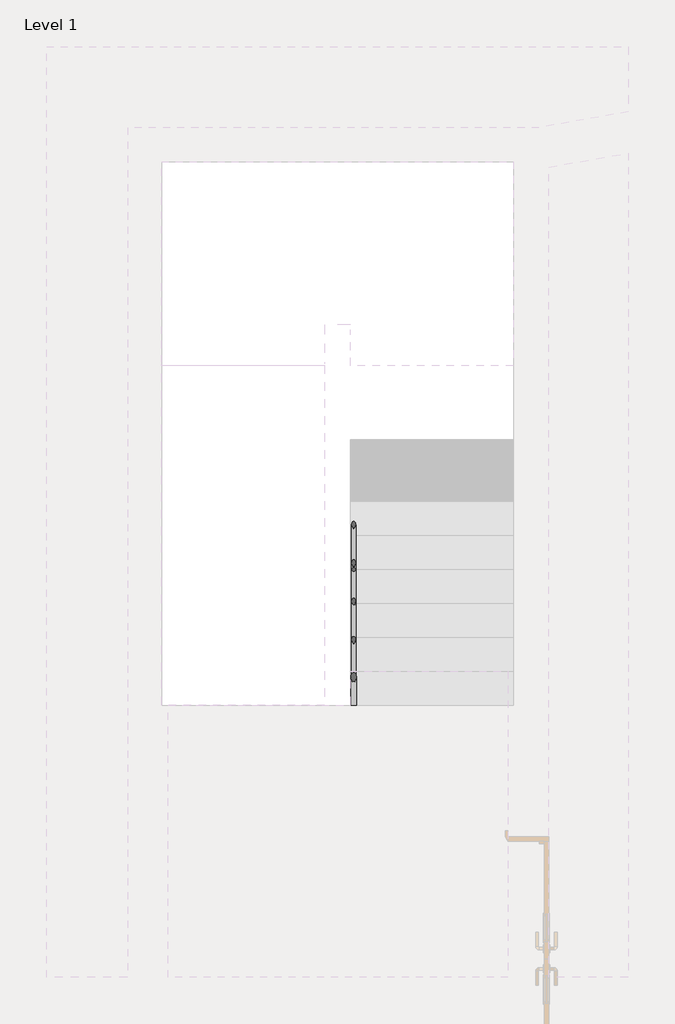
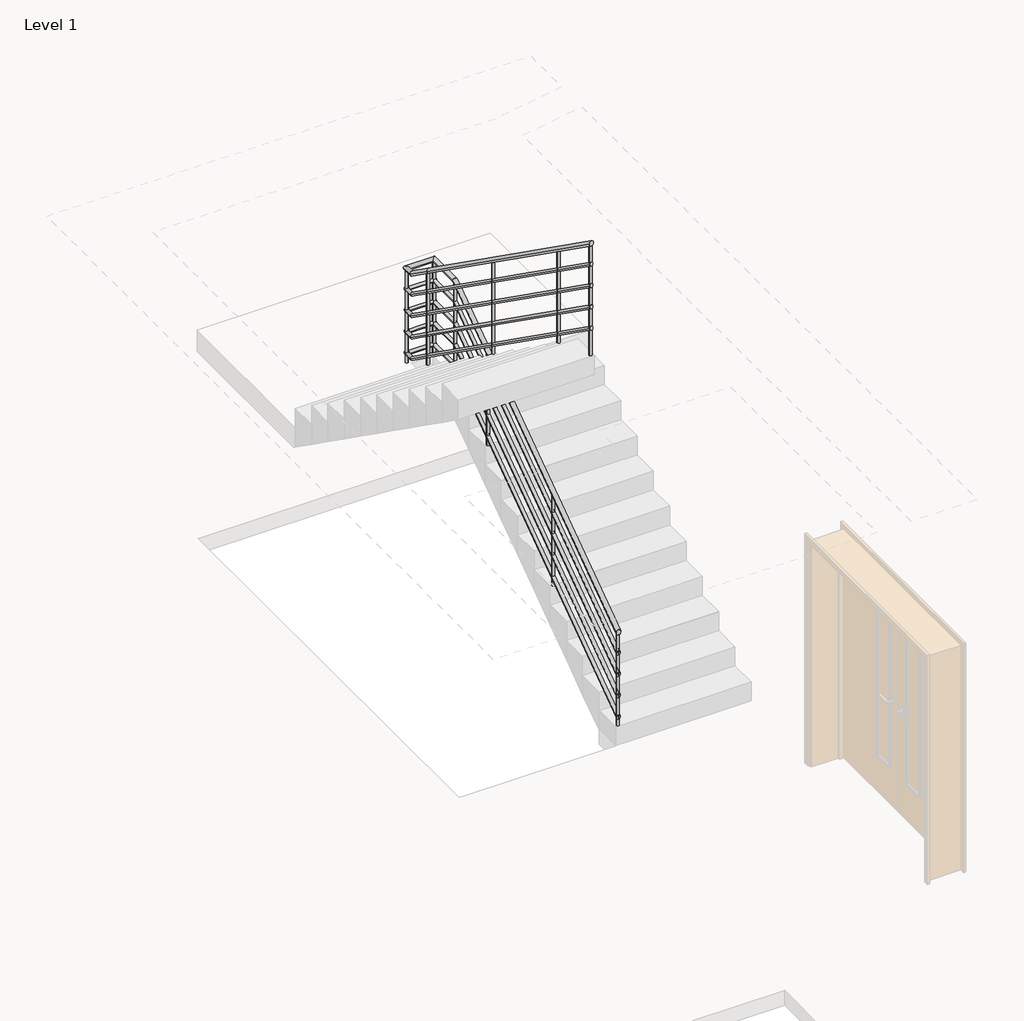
# One storey, part 11 of 12: 1 railing.
"""IFC4 building model written with IfcOpenShell, lengths in millimetres."""

from ifc_helpers import new_model, si_unit, point, frame, frame_2d, origin, place, context, project, spatial, circle_curve, ellipse_curve, trimmed, segment, composite_curve, outline, extrude, element, save
from ifc_brep_helpers import plane_surface, cylinder_surface, advanced_brep

model = new_model("IFC4")

# Units and contexts
model_context = context("Model", 3, world=origin())
ifc_project = project(units=[si_unit("LENGTHUNIT", "METRE", prefix="MILLI")], contexts=[model_context])

# Site, building, storey
site = spatial("IfcSite", under=ifc_project)
building = spatial("IfcBuilding", under=site)
storey = spatial("IfcBuildingStorey", under=building, Name="Level 1", Elevation=3900.0)

# Railing
placement = place(None, origin())
element("IfcRailing", 1, ObjectType="900mm_Pipe", at=placement, inside=storey, context=model_context, shape_type="SolidModel", body=[
    advanced_brep(
    [(29097.6000029, 3763.2000006, 4952.7548977), (29057.6000029, 3763.2000006, 4952.7548977), (29097.6000029, 6269.5712987, 6730.0), (29057.6000029, 6269.5712987, 6730.0), (29097.6000029, 6608.6000006, 6730.0), (29057.6000029, 6568.6000006, 6730.0), (28816.8000029, 6608.6000006, 6730.0), (28856.8000029, 6568.6000006, 6730.0), (28816.8000029, 6506.8287024, 6730.0), (28856.8000029, 6506.8287024, 6730.0), (28816.8000029, 6251.631425, 6910.9580695), (28856.8000029, 6251.631425, 6910.9580695), (28816.8000029, 3763.2000006, 8675.4821704), (28856.8000029, 3763.2000006, 8675.4821704)],
    [
        (0, 1, ellipse_curve(frame((29077.6000029, 3763.2000006, 4952.7548977), z_axis=(0.0, -1.0, 0.0), x_axis=(0.0, 0.0, -1.0)), 24.5178296, 20.0)),
        (1, 0, ellipse_curve(frame((29077.6000029, 3763.2000006, 4952.7548977), z_axis=(0.0, -1.0, 0.0), x_axis=(0.0, 0.0, -1.0)), 24.5178296, 20.0)),
        (0, 2),
        (2, 3, ellipse_curve(frame((29077.6000029, 6269.5712987, 6730.0), z_axis=(0.0, -0.9528202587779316, -0.3035350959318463), x_axis=(0.0, 0.30353509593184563, -0.952820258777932)), 20.9903178, 20.0)),
        (3, 1),
        (3, 2, ellipse_curve(frame((29077.6000029, 6269.5712987, 6730.0), z_axis=(0.0, -0.9528202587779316, -0.3035350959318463), x_axis=(0.0, 0.30353509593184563, -0.952820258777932)), 20.9903178, 20.0)),
        (2, 4),
        (4, 5, ellipse_curve(frame((29077.6000029, 6588.6000006, 6730.0), z_axis=(0.7071067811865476, -0.7071067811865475, 0.0), x_axis=(-0.7071067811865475, -0.7071067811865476, 0.0)), 28.2842712, 20.0)),
        (5, 3),
        (5, 4, ellipse_curve(frame((29077.6000029, 6588.6000006, 6730.0), z_axis=(0.7071067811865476, -0.7071067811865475, 0.0), x_axis=(-0.7071067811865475, -0.7071067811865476, 0.0)), 28.2842712, 20.0)),
        (4, 6),
        (6, 7, ellipse_curve(frame((28836.8000029, 6588.6000006, 6730.0), z_axis=(0.7071067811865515, 0.7071067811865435, 0.0), x_axis=(0.7071067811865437, -0.7071067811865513, 0.0)), 28.2842712, 20.0)),
        (7, 5),
        (7, 6, ellipse_curve(frame((28836.8000029, 6588.6000006, 6730.0), z_axis=(0.7071067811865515, 0.7071067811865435, 0.0), x_axis=(0.7071067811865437, -0.7071067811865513, 0.0)), 28.2842712, 20.0)),
        (6, 8),
        (8, 9, ellipse_curve(frame((28836.8000029, 6506.8287024, 6730.0), z_axis=(0.0, 0.9528202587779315, -0.3035350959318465), x_axis=(0.0, 0.3035350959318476, 0.9528202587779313)), 20.9903178, 20.0)),
        (9, 7),
        (9, 8, ellipse_curve(frame((28836.8000029, 6506.8287024, 6730.0), z_axis=(0.0, 0.9528202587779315, -0.3035350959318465), x_axis=(0.0, 0.3035350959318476, 0.9528202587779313)), 20.9903178, 20.0)),
        (8, 10),
        (10, 11, circle_curve(frame((28836.8000029, 6251.631425, 6910.9580695), z_axis=(0.0, 0.8157328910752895, -0.5784287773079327), x_axis=(1.0, 0.0, 0.0)), 20.0)),
        (11, 9),
        (11, 10, circle_curve(frame((28836.8000029, 6251.631425, 6910.9580695), z_axis=(0.0, 0.8157328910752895, -0.5784287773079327), x_axis=(1.0, 0.0, 0.0)), 20.0)),
        (12, 13, ellipse_curve(frame((28836.8000029, 3763.2000006, 8675.4821704), z_axis=(0.0, -1.0, 0.0), x_axis=(0.0, 0.0, -1.0)), 24.5178296, 20.0)),
        (13, 12, ellipse_curve(frame((28836.8000029, 3763.2000006, 8675.4821704), z_axis=(0.0, -1.0, 0.0), x_axis=(0.0, 0.0, -1.0)), 24.5178296, 20.0)),
        (10, 12),
        (13, 11),
    ],
    [
        plane_surface(frame((29077.6000029, 3763.2000006, 4977.2727273), z_axis=(0.0, -1.0, 0.0), x_axis=(0.0, 0.0, 1.0))),
        cylinder_surface(frame((29077.6000029, 3774.7685761, 4960.9580695), z_axis=(0.0, -0.8157328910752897, -0.5784287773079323), x_axis=(-1.0, 0.0, 0.0)), 20.0),
        cylinder_surface(frame((29077.6000029, 6263.2000006, 6730.0), z_axis=(0.0, -1.0, 0.0), x_axis=(-1.0, 0.0, 0.0)), 20.0),
        cylinder_surface(frame((29077.6000029, 6588.6000006, 6730.0), z_axis=(1.0, 0.0, 0.0), x_axis=(0.0, -1.0, 0.0)), 20.0),
        cylinder_surface(frame((28836.8000029, 6588.6000006, 6730.0), z_axis=(0.0, 1.0, 0.0), x_axis=(1.0, 0.0, 0.0)), 20.0),
        cylinder_surface(frame((28836.8000029, 6501.631425, 6733.6853422), z_axis=(0.0, 0.8157328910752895, -0.5784287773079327), x_axis=(1.0, 0.0, 0.0)), 20.0),
        plane_surface(frame((28836.8000029, 3763.2000006, 8700.0), z_axis=(0.0, -1.0, 0.0), x_axis=(0.0, 0.0, -1.0))),
        cylinder_surface(frame((28836.8000029, 6251.631425, 6910.9580695), z_axis=(0.0, 0.8157328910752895, -0.5784287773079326), x_axis=(1.0, 0.0, 0.0)), 20.0),
    ],
    [
        (0, [[1, 2]]),
        (1, [[-1, 3, 4, 5]]),
        (1, [[-2, -5, 6, -3]]),
        (2, [[-4, 7, 8, 9]]),
        (2, [[-6, -9, 10, -7]]),
        (3, [[-8, 11, 12, 13]]),
        (3, [[-10, -13, 14, -11]]),
        (4, [[-12, 15, 16, 17]]),
        (4, [[-14, -17, 18, -15]]),
        (5, [[-16, 19, 20, 21]]),
        (5, [[-18, -21, 22, -19]]),
        (6, [[23, 24]]),
        (7, [[-20, 25, -24, 26]]),
        (7, [[-22, -26, -23, -25]]),
    ],
),
    advanced_brep(
    [(29092.6000029, 3763.2000006, 4758.8843551), (29062.6000029, 3763.2000006, 4758.8843551), (29092.6000029, 6263.2000006, 6531.6116278), (29062.6000029, 6263.2000006, 6531.6116278)],
    [
        (0, 1, ellipse_curve(frame((29077.6000029, 3763.2000006, 4758.8843551), z_axis=(0.0, -1.0, 0.0), x_axis=(0.0, 0.0, -1.0)), 18.3883722, 15.0)),
        (1, 0, ellipse_curve(frame((29077.6000029, 3763.2000006, 4758.8843551), z_axis=(0.0, -1.0, 0.0), x_axis=(0.0, 0.0, -1.0)), 18.3883722, 15.0)),
        (2, 3, ellipse_curve(frame((29077.6000029, 6263.2000006, 6531.6116278), z_axis=(0.0, 1.0, 0.0), x_axis=(0.0, 0.0, -1.0)), 18.3883722, 15.0)),
        (3, 2, ellipse_curve(frame((29077.6000029, 6263.2000006, 6531.6116278), z_axis=(0.0, 1.0, 0.0), x_axis=(0.0, 0.0, -1.0)), 18.3883722, 15.0)),
        (0, 2),
        (3, 1),
    ],
    [
        plane_surface(frame((29077.6000029, 3763.2000006, 4777.2727273), z_axis=(0.0, -1.0, 0.0), x_axis=(0.0, 0.0, 1.0))),
        plane_surface(frame((29077.6000029, 6263.2000006, 6550.0), z_axis=(0.0, 1.0, 0.0), x_axis=(0.0, 0.0, 1.0))),
        cylinder_surface(frame((29077.6000029, 3771.8764322, 4765.0367339), z_axis=(0.0, -0.8157328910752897, -0.5784287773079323), x_axis=(-1.0, 0.0, 0.0)), 15.0),
    ],
    [
        (0, [[1, 2]]),
        (1, [[3, 4]]),
        (2, [[-1, 5, -4, 6]]),
        (2, [[-2, -6, -3, -5]]),
    ],
),
    advanced_brep(
    [(29092.6000029, 6263.2000006, 6535.0), (29062.6000029, 6263.2000006, 6535.0), (29092.6000029, 6573.6000006, 6535.0), (29062.6000029, 6573.6000006, 6535.0)],
    [
        (0, 1, circle_curve(frame((29077.6000029, 6263.2000006, 6535.0), z_axis=(0.0, -1.0, 0.0), x_axis=(-1.0, 0.0, 0.0)), 15.0)),
        (1, 0, circle_curve(frame((29077.6000029, 6263.2000006, 6535.0), z_axis=(0.0, -1.0, 0.0), x_axis=(-1.0, 0.0, 0.0)), 15.0)),
        (2, 3, circle_curve(frame((29077.6000029, 6573.6000006, 6535.0), z_axis=(0.0, 1.0, 0.0), x_axis=(-1.0, 0.0, 0.0)), 15.0)),
        (3, 2, circle_curve(frame((29077.6000029, 6573.6000006, 6535.0), z_axis=(0.0, 1.0, 0.0), x_axis=(-1.0, 0.0, 0.0)), 15.0)),
        (0, 2),
        (3, 1),
    ],
    [
        plane_surface(frame((29077.6000029, 6263.2000006, 6550.0), z_axis=(0.0, -1.0, 0.0), x_axis=(0.0, 0.0, 1.0))),
        plane_surface(frame((29077.6000029, 6573.6000006, 6550.0), z_axis=(0.0, 1.0, 0.0), x_axis=(0.0, 0.0, 1.0))),
        cylinder_surface(frame((29077.6000029, 6263.2000006, 6535.0), z_axis=(0.0, -1.0, 0.0), x_axis=(-1.0, 0.0, 0.0)), 15.0),
    ],
    [
        (0, [[1, 2]]),
        (1, [[3, 4]]),
        (2, [[-1, 5, -4, 6]]),
        (2, [[-2, -6, -3, -5]]),
    ],
),
    advanced_brep(
    [(29092.6000029, 6603.6000006, 6535.0), (29092.6000029, 6573.6000006, 6535.0), (28851.8000029, 6603.6000006, 6535.0), (28851.8000029, 6573.6000006, 6535.0)],
    [
        (0, 1, circle_curve(frame((29092.6000029, 6588.6000006, 6535.0), z_axis=(1.0, 0.0, 0.0), x_axis=(0.0, -1.0, 0.0)), 15.0)),
        (1, 0, circle_curve(frame((29092.6000029, 6588.6000006, 6535.0), z_axis=(1.0, 0.0, 0.0), x_axis=(0.0, -1.0, 0.0)), 15.0)),
        (2, 3, circle_curve(frame((28851.8000029, 6588.6000006, 6535.0), z_axis=(-1.0, 0.0, 0.0), x_axis=(0.0, -1.0, 0.0)), 15.0)),
        (3, 2, circle_curve(frame((28851.8000029, 6588.6000006, 6535.0), z_axis=(-1.0, 0.0, 0.0), x_axis=(0.0, -1.0, 0.0)), 15.0)),
        (0, 2),
        (3, 1),
    ],
    [
        plane_surface(frame((29092.6000029, 6588.6000006, 6550.0), z_axis=(1.0, 0.0, 0.0), x_axis=(0.0, -1.0, 0.0))),
        plane_surface(frame((28851.8000029, 6588.6000006, 6550.0), z_axis=(-1.0, 0.0, 0.0), x_axis=(0.0, -1.0, 0.0))),
        cylinder_surface(frame((29092.6000029, 6588.6000006, 6535.0), z_axis=(1.0, 0.0, 0.0), x_axis=(0.0, -1.0, 0.0)), 15.0),
    ],
    [
        (0, [[1, 2]]),
        (1, [[3, 4]]),
        (2, [[-1, 5, -4, 6]]),
        (2, [[-2, -6, -3, -5]]),
    ],
),
    advanced_brep(
    [(28821.8000029, 6603.6000006, 6535.0), (28851.8000029, 6603.6000006, 6535.0), (28821.8000029, 6508.421527, 6535.0), (28851.8000029, 6508.421527, 6535.0), (28821.8000029, 6263.2000006, 6708.8843551), (28851.8000029, 6263.2000006, 6708.8843551)],
    [
        (0, 1, circle_curve(frame((28836.8000029, 6603.6000006, 6535.0), z_axis=(0.0, 1.0, 0.0), x_axis=(1.0, 0.0, 0.0)), 15.0)),
        (1, 0, circle_curve(frame((28836.8000029, 6603.6000006, 6535.0), z_axis=(0.0, 1.0, 0.0), x_axis=(1.0, 0.0, 0.0)), 15.0)),
        (0, 2),
        (2, 3, ellipse_curve(frame((28836.8000029, 6508.421527, 6535.0), z_axis=(0.0, 0.9528202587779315, -0.3035350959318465), x_axis=(0.0, 0.3035350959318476, 0.9528202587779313)), 15.7427383, 15.0)),
        (3, 1),
        (3, 2, ellipse_curve(frame((28836.8000029, 6508.421527, 6535.0), z_axis=(0.0, 0.9528202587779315, -0.3035350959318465), x_axis=(0.0, 0.3035350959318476, 0.9528202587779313)), 15.7427383, 15.0)),
        (4, 5, ellipse_curve(frame((28836.8000029, 6263.2000006, 6708.8843551), z_axis=(0.0, -1.0, 0.0), x_axis=(0.0, 0.0, -1.0)), 18.3883722, 15.0)),
        (5, 4, ellipse_curve(frame((28836.8000029, 6263.2000006, 6708.8843551), z_axis=(0.0, -1.0, 0.0), x_axis=(0.0, 0.0, -1.0)), 18.3883722, 15.0)),
        (2, 4),
        (5, 3),
    ],
    [
        plane_surface(frame((28836.8000029, 6603.6000006, 6550.0), z_axis=(0.0, 1.0, 0.0), x_axis=(0.0, 0.0, -1.0))),
        cylinder_surface(frame((28836.8000029, 6603.6000006, 6535.0), z_axis=(0.0, 1.0, 0.0), x_axis=(1.0, 0.0, 0.0)), 15.0),
        plane_surface(frame((28836.8000029, 6263.2000006, 6727.2727273), z_axis=(0.0, -1.0, 0.0), x_axis=(0.0, 0.0, -1.0))),
        cylinder_surface(frame((28836.8000029, 6504.5235689, 6537.7640066), z_axis=(0.0, 0.8157328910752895, -0.5784287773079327), x_axis=(1.0, 0.0, 0.0)), 15.0),
    ],
    [
        (0, [[1, 2]]),
        (1, [[-1, 3, 4, 5]]),
        (1, [[-2, -5, 6, -3]]),
        (2, [[7, 8]]),
        (3, [[-4, 9, -8, 10]]),
        (3, [[-6, -10, -7, -9]]),
    ],
),
    advanced_brep(
    [(28821.8000029, 6263.2000006, 6708.8843551), (28851.8000029, 6263.2000006, 6708.8843551), (28821.8000029, 3763.2000006, 8481.6116278), (28851.8000029, 3763.2000006, 8481.6116278)],
    [
        (0, 1, ellipse_curve(frame((28836.8000029, 6263.2000006, 6708.8843551), z_axis=(0.0, 1.0, 0.0), x_axis=(0.0, 0.0, -1.0)), 18.3883722, 15.0)),
        (1, 0, ellipse_curve(frame((28836.8000029, 6263.2000006, 6708.8843551), z_axis=(0.0, 1.0, 0.0), x_axis=(0.0, 0.0, -1.0)), 18.3883722, 15.0)),
        (2, 3, ellipse_curve(frame((28836.8000029, 3763.2000006, 8481.6116278), z_axis=(0.0, -1.0, 0.0), x_axis=(0.0, 0.0, -1.0)), 18.3883722, 15.0)),
        (3, 2, ellipse_curve(frame((28836.8000029, 3763.2000006, 8481.6116278), z_axis=(0.0, -1.0, 0.0), x_axis=(0.0, 0.0, -1.0)), 18.3883722, 15.0)),
        (0, 2),
        (3, 1),
    ],
    [
        plane_surface(frame((28836.8000029, 6263.2000006, 6727.2727273), z_axis=(0.0, 1.0, 0.0), x_axis=(0.0, 0.0, -1.0))),
        plane_surface(frame((28836.8000029, 3763.2000006, 8500.0), z_axis=(0.0, -1.0, 0.0), x_axis=(0.0, 0.0, -1.0))),
        cylinder_surface(frame((28836.8000029, 6254.5235689, 6715.0367339), z_axis=(0.0, 0.8157328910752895, -0.5784287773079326), x_axis=(1.0, 0.0, 0.0)), 15.0),
    ],
    [
        (0, [[1, 2]]),
        (1, [[3, 4]]),
        (2, [[-1, 5, -4, 6]]),
        (2, [[-2, -6, -3, -5]]),
    ],
),
    advanced_brep(
    [(29092.6000029, 3763.2000006, 4558.8843551), (29062.6000029, 3763.2000006, 4558.8843551), (29092.6000029, 6263.2000006, 6331.6116278), (29062.6000029, 6263.2000006, 6331.6116278)],
    [
        (0, 1, ellipse_curve(frame((29077.6000029, 3763.2000006, 4558.8843551), z_axis=(0.0, -1.0, 0.0), x_axis=(0.0, 0.0, -1.0)), 18.3883722, 15.0)),
        (1, 0, ellipse_curve(frame((29077.6000029, 3763.2000006, 4558.8843551), z_axis=(0.0, -1.0, 0.0), x_axis=(0.0, 0.0, -1.0)), 18.3883722, 15.0)),
        (2, 3, ellipse_curve(frame((29077.6000029, 6263.2000006, 6331.6116278), z_axis=(0.0, 1.0, 0.0), x_axis=(0.0, 0.0, -1.0)), 18.3883722, 15.0)),
        (3, 2, ellipse_curve(frame((29077.6000029, 6263.2000006, 6331.6116278), z_axis=(0.0, 1.0, 0.0), x_axis=(0.0, 0.0, -1.0)), 18.3883722, 15.0)),
        (0, 2),
        (3, 1),
    ],
    [
        plane_surface(frame((29077.6000029, 3763.2000006, 4577.2727273), z_axis=(0.0, -1.0, 0.0), x_axis=(0.0, 0.0, 1.0))),
        plane_surface(frame((29077.6000029, 6263.2000006, 6350.0), z_axis=(0.0, 1.0, 0.0), x_axis=(0.0, 0.0, 1.0))),
        cylinder_surface(frame((29077.6000029, 3771.8764322, 4565.0367339), z_axis=(0.0, -0.8157328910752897, -0.5784287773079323), x_axis=(-1.0, 0.0, 0.0)), 15.0),
    ],
    [
        (0, [[1, 2]]),
        (1, [[3, 4]]),
        (2, [[-1, 5, -4, 6]]),
        (2, [[-2, -6, -3, -5]]),
    ],
),
    advanced_brep(
    [(29092.6000029, 6263.2000006, 6335.0), (29062.6000029, 6263.2000006, 6335.0), (29092.6000029, 6573.6000006, 6335.0), (29062.6000029, 6573.6000006, 6335.0)],
    [
        (0, 1, circle_curve(frame((29077.6000029, 6263.2000006, 6335.0), z_axis=(0.0, -1.0, 0.0), x_axis=(-1.0, 0.0, 0.0)), 15.0)),
        (1, 0, circle_curve(frame((29077.6000029, 6263.2000006, 6335.0), z_axis=(0.0, -1.0, 0.0), x_axis=(-1.0, 0.0, 0.0)), 15.0)),
        (2, 3, circle_curve(frame((29077.6000029, 6573.6000006, 6335.0), z_axis=(0.0, 1.0, 0.0), x_axis=(-1.0, 0.0, 0.0)), 15.0)),
        (3, 2, circle_curve(frame((29077.6000029, 6573.6000006, 6335.0), z_axis=(0.0, 1.0, 0.0), x_axis=(-1.0, 0.0, 0.0)), 15.0)),
        (0, 2),
        (3, 1),
    ],
    [
        plane_surface(frame((29077.6000029, 6263.2000006, 6350.0), z_axis=(0.0, -1.0, 0.0), x_axis=(0.0, 0.0, 1.0))),
        plane_surface(frame((29077.6000029, 6573.6000006, 6350.0), z_axis=(0.0, 1.0, 0.0), x_axis=(0.0, 0.0, 1.0))),
        cylinder_surface(frame((29077.6000029, 6263.2000006, 6335.0), z_axis=(0.0, -1.0, 0.0), x_axis=(-1.0, 0.0, 0.0)), 15.0),
    ],
    [
        (0, [[1, 2]]),
        (1, [[3, 4]]),
        (2, [[-1, 5, -4, 6]]),
        (2, [[-2, -6, -3, -5]]),
    ],
),
    advanced_brep(
    [(29092.6000029, 6603.6000006, 6335.0), (29092.6000029, 6573.6000006, 6335.0), (28851.8000029, 6603.6000006, 6335.0), (28851.8000029, 6573.6000006, 6335.0)],
    [
        (0, 1, circle_curve(frame((29092.6000029, 6588.6000006, 6335.0), z_axis=(1.0, 0.0, 0.0), x_axis=(0.0, -1.0, 0.0)), 15.0)),
        (1, 0, circle_curve(frame((29092.6000029, 6588.6000006, 6335.0), z_axis=(1.0, 0.0, 0.0), x_axis=(0.0, -1.0, 0.0)), 15.0)),
        (2, 3, circle_curve(frame((28851.8000029, 6588.6000006, 6335.0), z_axis=(-1.0, 0.0, 0.0), x_axis=(0.0, -1.0, 0.0)), 15.0)),
        (3, 2, circle_curve(frame((28851.8000029, 6588.6000006, 6335.0), z_axis=(-1.0, 0.0, 0.0), x_axis=(0.0, -1.0, 0.0)), 15.0)),
        (0, 2),
        (3, 1),
    ],
    [
        plane_surface(frame((29092.6000029, 6588.6000006, 6350.0), z_axis=(1.0, 0.0, 0.0), x_axis=(0.0, -1.0, 0.0))),
        plane_surface(frame((28851.8000029, 6588.6000006, 6350.0), z_axis=(-1.0, 0.0, 0.0), x_axis=(0.0, -1.0, 0.0))),
        cylinder_surface(frame((29092.6000029, 6588.6000006, 6335.0), z_axis=(1.0, 0.0, 0.0), x_axis=(0.0, -1.0, 0.0)), 15.0),
    ],
    [
        (0, [[1, 2]]),
        (1, [[3, 4]]),
        (2, [[-1, 5, -4, 6]]),
        (2, [[-2, -6, -3, -5]]),
    ],
),
    advanced_brep(
    [(28821.8000029, 6603.6000006, 6335.0), (28851.8000029, 6603.6000006, 6335.0), (28821.8000029, 6508.421527, 6335.0), (28851.8000029, 6508.421527, 6335.0), (28821.8000029, 6263.2000006, 6508.8843551), (28851.8000029, 6263.2000006, 6508.8843551)],
    [
        (0, 1, circle_curve(frame((28836.8000029, 6603.6000006, 6335.0), z_axis=(0.0, 1.0, 0.0), x_axis=(1.0, 0.0, 0.0)), 15.0)),
        (1, 0, circle_curve(frame((28836.8000029, 6603.6000006, 6335.0), z_axis=(0.0, 1.0, 0.0), x_axis=(1.0, 0.0, 0.0)), 15.0)),
        (0, 2),
        (2, 3, ellipse_curve(frame((28836.8000029, 6508.421527, 6335.0), z_axis=(0.0, 0.9528202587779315, -0.3035350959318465), x_axis=(0.0, 0.3035350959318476, 0.9528202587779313)), 15.7427383, 15.0)),
        (3, 1),
        (3, 2, ellipse_curve(frame((28836.8000029, 6508.421527, 6335.0), z_axis=(0.0, 0.9528202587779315, -0.3035350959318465), x_axis=(0.0, 0.3035350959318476, 0.9528202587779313)), 15.7427383, 15.0)),
        (4, 5, ellipse_curve(frame((28836.8000029, 6263.2000006, 6508.8843551), z_axis=(0.0, -1.0, 0.0), x_axis=(0.0, 0.0, -1.0)), 18.3883722, 15.0)),
        (5, 4, ellipse_curve(frame((28836.8000029, 6263.2000006, 6508.8843551), z_axis=(0.0, -1.0, 0.0), x_axis=(0.0, 0.0, -1.0)), 18.3883722, 15.0)),
        (2, 4),
        (5, 3),
    ],
    [
        plane_surface(frame((28836.8000029, 6603.6000006, 6350.0), z_axis=(0.0, 1.0, 0.0), x_axis=(0.0, 0.0, -1.0))),
        cylinder_surface(frame((28836.8000029, 6603.6000006, 6335.0), z_axis=(0.0, 1.0, 0.0), x_axis=(1.0, 0.0, 0.0)), 15.0),
        plane_surface(frame((28836.8000029, 6263.2000006, 6527.2727273), z_axis=(0.0, -1.0, 0.0), x_axis=(0.0, 0.0, -1.0))),
        cylinder_surface(frame((28836.8000029, 6504.5235689, 6337.7640066), z_axis=(0.0, 0.8157328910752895, -0.5784287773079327), x_axis=(1.0, 0.0, 0.0)), 15.0),
    ],
    [
        (0, [[1, 2]]),
        (1, [[-1, 3, 4, 5]]),
        (1, [[-2, -5, 6, -3]]),
        (2, [[7, 8]]),
        (3, [[-4, 9, -8, 10]]),
        (3, [[-6, -10, -7, -9]]),
    ],
),
    advanced_brep(
    [(28821.8000029, 6263.2000006, 6508.8843551), (28851.8000029, 6263.2000006, 6508.8843551), (28821.8000029, 3763.2000006, 8281.6116278), (28851.8000029, 3763.2000006, 8281.6116278)],
    [
        (0, 1, ellipse_curve(frame((28836.8000029, 6263.2000006, 6508.8843551), z_axis=(0.0, 1.0, 0.0), x_axis=(0.0, 0.0, -1.0)), 18.3883722, 15.0)),
        (1, 0, ellipse_curve(frame((28836.8000029, 6263.2000006, 6508.8843551), z_axis=(0.0, 1.0, 0.0), x_axis=(0.0, 0.0, -1.0)), 18.3883722, 15.0)),
        (2, 3, ellipse_curve(frame((28836.8000029, 3763.2000006, 8281.6116278), z_axis=(0.0, -1.0, 0.0), x_axis=(0.0, 0.0, -1.0)), 18.3883722, 15.0)),
        (3, 2, ellipse_curve(frame((28836.8000029, 3763.2000006, 8281.6116278), z_axis=(0.0, -1.0, 0.0), x_axis=(0.0, 0.0, -1.0)), 18.3883722, 15.0)),
        (0, 2),
        (3, 1),
    ],
    [
        plane_surface(frame((28836.8000029, 6263.2000006, 6527.2727273), z_axis=(0.0, 1.0, 0.0), x_axis=(0.0, 0.0, -1.0))),
        plane_surface(frame((28836.8000029, 3763.2000006, 8300.0), z_axis=(0.0, -1.0, 0.0), x_axis=(0.0, 0.0, -1.0))),
        cylinder_surface(frame((28836.8000029, 6254.5235689, 6515.0367339), z_axis=(0.0, 0.8157328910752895, -0.5784287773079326), x_axis=(1.0, 0.0, 0.0)), 15.0),
    ],
    [
        (0, [[1, 2]]),
        (1, [[3, 4]]),
        (2, [[-1, 5, -4, 6]]),
        (2, [[-2, -6, -3, -5]]),
    ],
),
    advanced_brep(
    [(29092.6000029, 3763.2000006, 4358.8843551), (29062.6000029, 3763.2000006, 4358.8843551), (29092.6000029, 6263.2000006, 6131.6116278), (29062.6000029, 6263.2000006, 6131.6116278)],
    [
        (0, 1, ellipse_curve(frame((29077.6000029, 3763.2000006, 4358.8843551), z_axis=(0.0, -1.0, 0.0), x_axis=(0.0, 0.0, -1.0)), 18.3883722, 15.0)),
        (1, 0, ellipse_curve(frame((29077.6000029, 3763.2000006, 4358.8843551), z_axis=(0.0, -1.0, 0.0), x_axis=(0.0, 0.0, -1.0)), 18.3883722, 15.0)),
        (2, 3, ellipse_curve(frame((29077.6000029, 6263.2000006, 6131.6116278), z_axis=(0.0, 1.0, 0.0), x_axis=(0.0, 0.0, -1.0)), 18.3883722, 15.0)),
        (3, 2, ellipse_curve(frame((29077.6000029, 6263.2000006, 6131.6116278), z_axis=(0.0, 1.0, 0.0), x_axis=(0.0, 0.0, -1.0)), 18.3883722, 15.0)),
        (0, 2),
        (3, 1),
    ],
    [
        plane_surface(frame((29077.6000029, 3763.2000006, 4377.2727273), z_axis=(0.0, -1.0, 0.0), x_axis=(0.0, 0.0, 1.0))),
        plane_surface(frame((29077.6000029, 6263.2000006, 6150.0), z_axis=(0.0, 1.0, 0.0), x_axis=(0.0, 0.0, 1.0))),
        cylinder_surface(frame((29077.6000029, 3771.8764322, 4365.0367339), z_axis=(0.0, -0.8157328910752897, -0.5784287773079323), x_axis=(-1.0, 0.0, 0.0)), 15.0),
    ],
    [
        (0, [[1, 2]]),
        (1, [[3, 4]]),
        (2, [[-1, 5, -4, 6]]),
        (2, [[-2, -6, -3, -5]]),
    ],
),
    advanced_brep(
    [(29092.6000029, 6263.2000006, 6135.0), (29062.6000029, 6263.2000006, 6135.0), (29092.6000029, 6573.6000006, 6135.0), (29062.6000029, 6573.6000006, 6135.0)],
    [
        (0, 1, circle_curve(frame((29077.6000029, 6263.2000006, 6135.0), z_axis=(0.0, -1.0, 0.0), x_axis=(-1.0, 0.0, 0.0)), 15.0)),
        (1, 0, circle_curve(frame((29077.6000029, 6263.2000006, 6135.0), z_axis=(0.0, -1.0, 0.0), x_axis=(-1.0, 0.0, 0.0)), 15.0)),
        (2, 3, circle_curve(frame((29077.6000029, 6573.6000006, 6135.0), z_axis=(0.0, 1.0, 0.0), x_axis=(-1.0, 0.0, 0.0)), 15.0)),
        (3, 2, circle_curve(frame((29077.6000029, 6573.6000006, 6135.0), z_axis=(0.0, 1.0, 0.0), x_axis=(-1.0, 0.0, 0.0)), 15.0)),
        (0, 2),
        (3, 1),
    ],
    [
        plane_surface(frame((29077.6000029, 6263.2000006, 6150.0), z_axis=(0.0, -1.0, 0.0), x_axis=(0.0, 0.0, 1.0))),
        plane_surface(frame((29077.6000029, 6573.6000006, 6150.0), z_axis=(0.0, 1.0, 0.0), x_axis=(0.0, 0.0, 1.0))),
        cylinder_surface(frame((29077.6000029, 6263.2000006, 6135.0), z_axis=(0.0, -1.0, 0.0), x_axis=(-1.0, 0.0, 0.0)), 15.0),
    ],
    [
        (0, [[1, 2]]),
        (1, [[3, 4]]),
        (2, [[-1, 5, -4, 6]]),
        (2, [[-2, -6, -3, -5]]),
    ],
),
    advanced_brep(
    [(29092.6000029, 6603.6000006, 6135.0), (29092.6000029, 6573.6000006, 6135.0), (28851.8000029, 6603.6000006, 6135.0), (28851.8000029, 6573.6000006, 6135.0)],
    [
        (0, 1, circle_curve(frame((29092.6000029, 6588.6000006, 6135.0), z_axis=(1.0, 0.0, 0.0), x_axis=(0.0, -1.0, 0.0)), 15.0)),
        (1, 0, circle_curve(frame((29092.6000029, 6588.6000006, 6135.0), z_axis=(1.0, 0.0, 0.0), x_axis=(0.0, -1.0, 0.0)), 15.0)),
        (2, 3, circle_curve(frame((28851.8000029, 6588.6000006, 6135.0), z_axis=(-1.0, 0.0, 0.0), x_axis=(0.0, -1.0, 0.0)), 15.0)),
        (3, 2, circle_curve(frame((28851.8000029, 6588.6000006, 6135.0), z_axis=(-1.0, 0.0, 0.0), x_axis=(0.0, -1.0, 0.0)), 15.0)),
        (0, 2),
        (3, 1),
    ],
    [
        plane_surface(frame((29092.6000029, 6588.6000006, 6150.0), z_axis=(1.0, 0.0, 0.0), x_axis=(0.0, -1.0, 0.0))),
        plane_surface(frame((28851.8000029, 6588.6000006, 6150.0), z_axis=(-1.0, 0.0, 0.0), x_axis=(0.0, -1.0, 0.0))),
        cylinder_surface(frame((29092.6000029, 6588.6000006, 6135.0), z_axis=(1.0, 0.0, 0.0), x_axis=(0.0, -1.0, 0.0)), 15.0),
    ],
    [
        (0, [[1, 2]]),
        (1, [[3, 4]]),
        (2, [[-1, 5, -4, 6]]),
        (2, [[-2, -6, -3, -5]]),
    ],
),
    advanced_brep(
    [(28821.8000029, 6603.6000006, 6135.0), (28851.8000029, 6603.6000006, 6135.0), (28821.8000029, 6508.421527, 6135.0), (28851.8000029, 6508.421527, 6135.0), (28821.8000029, 6263.2000006, 6308.8843551), (28851.8000029, 6263.2000006, 6308.8843551)],
    [
        (0, 1, circle_curve(frame((28836.8000029, 6603.6000006, 6135.0), z_axis=(0.0, 1.0, 0.0), x_axis=(1.0, 0.0, 0.0)), 15.0)),
        (1, 0, circle_curve(frame((28836.8000029, 6603.6000006, 6135.0), z_axis=(0.0, 1.0, 0.0), x_axis=(1.0, 0.0, 0.0)), 15.0)),
        (0, 2),
        (2, 3, ellipse_curve(frame((28836.8000029, 6508.421527, 6135.0), z_axis=(0.0, 0.9528202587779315, -0.3035350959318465), x_axis=(0.0, 0.3035350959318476, 0.9528202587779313)), 15.7427383, 15.0)),
        (3, 1),
        (3, 2, ellipse_curve(frame((28836.8000029, 6508.421527, 6135.0), z_axis=(0.0, 0.9528202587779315, -0.3035350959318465), x_axis=(0.0, 0.3035350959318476, 0.9528202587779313)), 15.7427383, 15.0)),
        (4, 5, ellipse_curve(frame((28836.8000029, 6263.2000006, 6308.8843551), z_axis=(0.0, -1.0, 0.0), x_axis=(0.0, 0.0, -1.0)), 18.3883722, 15.0)),
        (5, 4, ellipse_curve(frame((28836.8000029, 6263.2000006, 6308.8843551), z_axis=(0.0, -1.0, 0.0), x_axis=(0.0, 0.0, -1.0)), 18.3883722, 15.0)),
        (2, 4),
        (5, 3),
    ],
    [
        plane_surface(frame((28836.8000029, 6603.6000006, 6150.0), z_axis=(0.0, 1.0, 0.0), x_axis=(0.0, 0.0, -1.0))),
        cylinder_surface(frame((28836.8000029, 6603.6000006, 6135.0), z_axis=(0.0, 1.0, 0.0), x_axis=(1.0, 0.0, 0.0)), 15.0),
        plane_surface(frame((28836.8000029, 6263.2000006, 6327.2727273), z_axis=(0.0, -1.0, 0.0), x_axis=(0.0, 0.0, -1.0))),
        cylinder_surface(frame((28836.8000029, 6504.5235689, 6137.7640066), z_axis=(0.0, 0.8157328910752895, -0.5784287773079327), x_axis=(1.0, 0.0, 0.0)), 15.0),
    ],
    [
        (0, [[1, 2]]),
        (1, [[-1, 3, 4, 5]]),
        (1, [[-2, -5, 6, -3]]),
        (2, [[7, 8]]),
        (3, [[-4, 9, -8, 10]]),
        (3, [[-6, -10, -7, -9]]),
    ],
),
    advanced_brep(
    [(28821.8000029, 6263.2000006, 6308.8843551), (28851.8000029, 6263.2000006, 6308.8843551), (28821.8000029, 3763.2000006, 8081.6116278), (28851.8000029, 3763.2000006, 8081.6116278)],
    [
        (0, 1, ellipse_curve(frame((28836.8000029, 6263.2000006, 6308.8843551), z_axis=(0.0, 1.0, 0.0), x_axis=(0.0, 0.0, -1.0)), 18.3883722, 15.0)),
        (1, 0, ellipse_curve(frame((28836.8000029, 6263.2000006, 6308.8843551), z_axis=(0.0, 1.0, 0.0), x_axis=(0.0, 0.0, -1.0)), 18.3883722, 15.0)),
        (2, 3, ellipse_curve(frame((28836.8000029, 3763.2000006, 8081.6116278), z_axis=(0.0, -1.0, 0.0), x_axis=(0.0, 0.0, -1.0)), 18.3883722, 15.0)),
        (3, 2, ellipse_curve(frame((28836.8000029, 3763.2000006, 8081.6116278), z_axis=(0.0, -1.0, 0.0), x_axis=(0.0, 0.0, -1.0)), 18.3883722, 15.0)),
        (0, 2),
        (3, 1),
    ],
    [
        plane_surface(frame((28836.8000029, 6263.2000006, 6327.2727273), z_axis=(0.0, 1.0, 0.0), x_axis=(0.0, 0.0, -1.0))),
        plane_surface(frame((28836.8000029, 3763.2000006, 8100.0), z_axis=(0.0, -1.0, 0.0), x_axis=(0.0, 0.0, -1.0))),
        cylinder_surface(frame((28836.8000029, 6254.5235689, 6315.0367339), z_axis=(0.0, 0.8157328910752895, -0.5784287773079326), x_axis=(1.0, 0.0, 0.0)), 15.0),
    ],
    [
        (0, [[1, 2]]),
        (1, [[3, 4]]),
        (2, [[-1, 5, -4, 6]]),
        (2, [[-2, -6, -3, -5]]),
    ],
),
    advanced_brep(
    [(29092.6000029, 3763.2000006, 4158.8843551), (29062.6000029, 3763.2000006, 4158.8843551), (29092.6000029, 6263.2000006, 5931.6116278), (29062.6000029, 6263.2000006, 5931.6116278)],
    [
        (0, 1, ellipse_curve(frame((29077.6000029, 3763.2000006, 4158.8843551), z_axis=(0.0, -1.0, 0.0), x_axis=(0.0, 0.0, -1.0)), 18.3883722, 15.0)),
        (1, 0, ellipse_curve(frame((29077.6000029, 3763.2000006, 4158.8843551), z_axis=(0.0, -1.0, 0.0), x_axis=(0.0, 0.0, -1.0)), 18.3883722, 15.0)),
        (2, 3, ellipse_curve(frame((29077.6000029, 6263.2000006, 5931.6116278), z_axis=(0.0, 1.0, 0.0), x_axis=(0.0, 0.0, -1.0)), 18.3883722, 15.0)),
        (3, 2, ellipse_curve(frame((29077.6000029, 6263.2000006, 5931.6116278), z_axis=(0.0, 1.0, 0.0), x_axis=(0.0, 0.0, -1.0)), 18.3883722, 15.0)),
        (0, 2),
        (3, 1),
    ],
    [
        plane_surface(frame((29077.6000029, 3763.2000006, 4177.2727273), z_axis=(0.0, -1.0, 0.0), x_axis=(0.0, 0.0, 1.0))),
        plane_surface(frame((29077.6000029, 6263.2000006, 5950.0), z_axis=(0.0, 1.0, 0.0), x_axis=(0.0, 0.0, 1.0))),
        cylinder_surface(frame((29077.6000029, 3771.8764322, 4165.0367339), z_axis=(0.0, -0.8157328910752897, -0.5784287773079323), x_axis=(-1.0, 0.0, 0.0)), 15.0),
    ],
    [
        (0, [[1, 2]]),
        (1, [[3, 4]]),
        (2, [[-1, 5, -4, 6]]),
        (2, [[-2, -6, -3, -5]]),
    ],
),
    advanced_brep(
    [(29092.6000029, 6263.2000006, 5935.0), (29062.6000029, 6263.2000006, 5935.0), (29092.6000029, 6573.6000006, 5935.0), (29062.6000029, 6573.6000006, 5935.0)],
    [
        (0, 1, circle_curve(frame((29077.6000029, 6263.2000006, 5935.0), z_axis=(0.0, -1.0, 0.0), x_axis=(-1.0, 0.0, 0.0)), 15.0)),
        (1, 0, circle_curve(frame((29077.6000029, 6263.2000006, 5935.0), z_axis=(0.0, -1.0, 0.0), x_axis=(-1.0, 0.0, 0.0)), 15.0)),
        (2, 3, circle_curve(frame((29077.6000029, 6573.6000006, 5935.0), z_axis=(0.0, 1.0, 0.0), x_axis=(-1.0, 0.0, 0.0)), 15.0)),
        (3, 2, circle_curve(frame((29077.6000029, 6573.6000006, 5935.0), z_axis=(0.0, 1.0, 0.0), x_axis=(-1.0, 0.0, 0.0)), 15.0)),
        (0, 2),
        (3, 1),
    ],
    [
        plane_surface(frame((29077.6000029, 6263.2000006, 5950.0), z_axis=(0.0, -1.0, 0.0), x_axis=(0.0, 0.0, 1.0))),
        plane_surface(frame((29077.6000029, 6573.6000006, 5950.0), z_axis=(0.0, 1.0, 0.0), x_axis=(0.0, 0.0, 1.0))),
        cylinder_surface(frame((29077.6000029, 6263.2000006, 5935.0), z_axis=(0.0, -1.0, 0.0), x_axis=(-1.0, 0.0, 0.0)), 15.0),
    ],
    [
        (0, [[1, 2]]),
        (1, [[3, 4]]),
        (2, [[-1, 5, -4, 6]]),
        (2, [[-2, -6, -3, -5]]),
    ],
),
    advanced_brep(
    [(29092.6000029, 6603.6000006, 5935.0), (29092.6000029, 6573.6000006, 5935.0), (28851.8000029, 6603.6000006, 5935.0), (28851.8000029, 6573.6000006, 5935.0)],
    [
        (0, 1, circle_curve(frame((29092.6000029, 6588.6000006, 5935.0), z_axis=(1.0, 0.0, 0.0), x_axis=(0.0, -1.0, 0.0)), 15.0)),
        (1, 0, circle_curve(frame((29092.6000029, 6588.6000006, 5935.0), z_axis=(1.0, 0.0, 0.0), x_axis=(0.0, -1.0, 0.0)), 15.0)),
        (2, 3, circle_curve(frame((28851.8000029, 6588.6000006, 5935.0), z_axis=(-1.0, 0.0, 0.0), x_axis=(0.0, -1.0, 0.0)), 15.0)),
        (3, 2, circle_curve(frame((28851.8000029, 6588.6000006, 5935.0), z_axis=(-1.0, 0.0, 0.0), x_axis=(0.0, -1.0, 0.0)), 15.0)),
        (0, 2),
        (3, 1),
    ],
    [
        plane_surface(frame((29092.6000029, 6588.6000006, 5950.0), z_axis=(1.0, 0.0, 0.0), x_axis=(0.0, -1.0, 0.0))),
        plane_surface(frame((28851.8000029, 6588.6000006, 5950.0), z_axis=(-1.0, 0.0, 0.0), x_axis=(0.0, -1.0, 0.0))),
        cylinder_surface(frame((29092.6000029, 6588.6000006, 5935.0), z_axis=(1.0, 0.0, 0.0), x_axis=(0.0, -1.0, 0.0)), 15.0),
    ],
    [
        (0, [[1, 2]]),
        (1, [[3, 4]]),
        (2, [[-1, 5, -4, 6]]),
        (2, [[-2, -6, -3, -5]]),
    ],
),
    advanced_brep(
    [(28821.8000029, 6603.6000006, 5935.0), (28851.8000029, 6603.6000006, 5935.0), (28821.8000029, 6508.421527, 5935.0), (28851.8000029, 6508.421527, 5935.0), (28821.8000029, 6263.2000006, 6108.8843551), (28851.8000029, 6263.2000006, 6108.8843551)],
    [
        (0, 1, circle_curve(frame((28836.8000029, 6603.6000006, 5935.0), z_axis=(0.0, 1.0, 0.0), x_axis=(1.0, 0.0, 0.0)), 15.0)),
        (1, 0, circle_curve(frame((28836.8000029, 6603.6000006, 5935.0), z_axis=(0.0, 1.0, 0.0), x_axis=(1.0, 0.0, 0.0)), 15.0)),
        (0, 2),
        (2, 3, ellipse_curve(frame((28836.8000029, 6508.421527, 5935.0), z_axis=(0.0, 0.9528202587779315, -0.3035350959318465), x_axis=(0.0, 0.3035350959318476, 0.9528202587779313)), 15.7427383, 15.0)),
        (3, 1),
        (3, 2, ellipse_curve(frame((28836.8000029, 6508.421527, 5935.0), z_axis=(0.0, 0.9528202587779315, -0.3035350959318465), x_axis=(0.0, 0.3035350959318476, 0.9528202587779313)), 15.7427383, 15.0)),
        (4, 5, ellipse_curve(frame((28836.8000029, 6263.2000006, 6108.8843551), z_axis=(0.0, -1.0, 0.0), x_axis=(0.0, 0.0, -1.0)), 18.3883722, 15.0)),
        (5, 4, ellipse_curve(frame((28836.8000029, 6263.2000006, 6108.8843551), z_axis=(0.0, -1.0, 0.0), x_axis=(0.0, 0.0, -1.0)), 18.3883722, 15.0)),
        (2, 4),
        (5, 3),
    ],
    [
        plane_surface(frame((28836.8000029, 6603.6000006, 5950.0), z_axis=(0.0, 1.0, 0.0), x_axis=(0.0, 0.0, -1.0))),
        cylinder_surface(frame((28836.8000029, 6603.6000006, 5935.0), z_axis=(0.0, 1.0, 0.0), x_axis=(1.0, 0.0, 0.0)), 15.0),
        plane_surface(frame((28836.8000029, 6263.2000006, 6127.2727273), z_axis=(0.0, -1.0, 0.0), x_axis=(0.0, 0.0, -1.0))),
        cylinder_surface(frame((28836.8000029, 6504.5235689, 5937.7640066), z_axis=(0.0, 0.8157328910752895, -0.5784287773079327), x_axis=(1.0, 0.0, 0.0)), 15.0),
    ],
    [
        (0, [[1, 2]]),
        (1, [[-1, 3, 4, 5]]),
        (1, [[-2, -5, 6, -3]]),
        (2, [[7, 8]]),
        (3, [[-4, 9, -8, 10]]),
        (3, [[-6, -10, -7, -9]]),
    ],
),
    advanced_brep(
    [(28821.8000029, 6263.2000006, 6108.8843551), (28851.8000029, 6263.2000006, 6108.8843551), (28821.8000029, 3763.2000006, 7881.6116278), (28851.8000029, 3763.2000006, 7881.6116278)],
    [
        (0, 1, ellipse_curve(frame((28836.8000029, 6263.2000006, 6108.8843551), z_axis=(0.0, 1.0, 0.0), x_axis=(0.0, 0.0, -1.0)), 18.3883722, 15.0)),
        (1, 0, ellipse_curve(frame((28836.8000029, 6263.2000006, 6108.8843551), z_axis=(0.0, 1.0, 0.0), x_axis=(0.0, 0.0, -1.0)), 18.3883722, 15.0)),
        (2, 3, ellipse_curve(frame((28836.8000029, 3763.2000006, 7881.6116278), z_axis=(0.0, -1.0, 0.0), x_axis=(0.0, 0.0, -1.0)), 18.3883722, 15.0)),
        (3, 2, ellipse_curve(frame((28836.8000029, 3763.2000006, 7881.6116278), z_axis=(0.0, -1.0, 0.0), x_axis=(0.0, 0.0, -1.0)), 18.3883722, 15.0)),
        (0, 2),
        (3, 1),
    ],
    [
        plane_surface(frame((28836.8000029, 6263.2000006, 6127.2727273), z_axis=(0.0, 1.0, 0.0), x_axis=(0.0, 0.0, -1.0))),
        plane_surface(frame((28836.8000029, 3763.2000006, 7900.0), z_axis=(0.0, -1.0, 0.0), x_axis=(0.0, 0.0, -1.0))),
        cylinder_surface(frame((28836.8000029, 6254.5235689, 6115.0367339), z_axis=(0.0, 0.8157328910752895, -0.5784287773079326), x_axis=(1.0, 0.0, 0.0)), 15.0),
    ],
    [
        (0, [[1, 2]]),
        (1, [[3, 4]]),
        (2, [[-1, 5, -4, 6]]),
        (2, [[-2, -6, -3, -5]]),
    ],
),
    advanced_brep(
    [(28849.3000029, 4263.2000006, 8296.4188863), (28824.3000029, 4263.2000006, 8296.4188863), (28824.3000029, 4263.2000006, 7445.4545455), (28849.3000029, 4263.2000006, 7445.4545455)],
    [
        (0, 1, ellipse_curve(frame((28836.8000029, 4263.2000006, 8296.4188863), z_axis=(0.0, -0.5784287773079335, -0.8157328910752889), x_axis=(0.0, -0.8157328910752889, 0.5784287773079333)), 15.3236435, 12.5)),
        (1, 2),
        (2, 3, circle_curve(frame((28836.8000029, 4263.2000006, 7445.4545455), z_axis=(0.0, 0.0, 1.0), x_axis=(-1.0, 0.0, 0.0)), 12.5)),
        (3, 0),
        (3, 2, circle_curve(frame((28836.8000029, 4263.2000006, 7445.4545455), z_axis=(0.0, 0.0, 1.0), x_axis=(-1.0, 0.0, 0.0)), 12.5)),
        (1, 0, ellipse_curve(frame((28836.8000029, 4263.2000006, 8296.4188863), z_axis=(0.0, -0.5784287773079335, -0.8157328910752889), x_axis=(0.0, -0.8157328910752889, 0.5784287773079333)), 15.3236435, 12.5)),
    ],
    [
        cylinder_surface(frame((28836.8000029, 4263.2000006, 7345.4545455), z_axis=(0.0, 0.0, 1.0), x_axis=(-1.0, 0.0, 0.0)), 12.5),
        plane_surface(frame((28811.8000029, 4238.2000006, 8314.146159), z_axis=(0.0, 0.5784287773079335, 0.8157328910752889), x_axis=(1.0, 0.0, 0.0))),
        plane_surface(frame((28811.8000029, 4288.2000006, 7445.4545455), z_axis=(0.0, 0.0, -1.0), x_axis=(1.0, 0.0, 0.0))),
    ],
    [
        (0, [[1, 2, 3, 4]]),
        (0, [[5, -2, 6, -4]]),
        (1, [[-6, -1]]),
        (2, [[-5, -3]]),
    ],
),
    advanced_brep(
    [(28849.3000029, 5263.2000006, 7587.3279772), (28824.3000029, 5263.2000006, 7587.3279772), (28824.3000029, 5263.2000006, 6736.3636364), (28849.3000029, 5263.2000006, 6736.3636364)],
    [
        (0, 1, ellipse_curve(frame((28836.8000029, 5263.2000006, 7587.3279772), z_axis=(0.0, -0.5784287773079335, -0.8157328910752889), x_axis=(0.0, -0.8157328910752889, 0.5784287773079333)), 15.3236435, 12.5)),
        (1, 2),
        (2, 3, circle_curve(frame((28836.8000029, 5263.2000006, 6736.3636364), z_axis=(0.0, 0.0, 1.0), x_axis=(-1.0, 0.0, 0.0)), 12.5)),
        (3, 0),
        (3, 2, circle_curve(frame((28836.8000029, 5263.2000006, 6736.3636364), z_axis=(0.0, 0.0, 1.0), x_axis=(-1.0, 0.0, 0.0)), 12.5)),
        (1, 0, ellipse_curve(frame((28836.8000029, 5263.2000006, 7587.3279772), z_axis=(0.0, -0.5784287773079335, -0.8157328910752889), x_axis=(0.0, -0.8157328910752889, 0.5784287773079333)), 15.3236435, 12.5)),
    ],
    [
        cylinder_surface(frame((28836.8000029, 5263.2000006, 6636.3636364), z_axis=(0.0, 0.0, 1.0), x_axis=(-1.0, 0.0, 0.0)), 12.5),
        plane_surface(frame((28811.8000029, 5238.2000006, 7605.0552499), z_axis=(0.0, 0.5784287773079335, 0.8157328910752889), x_axis=(1.0, 0.0, 0.0))),
        plane_surface(frame((28811.8000029, 5288.2000006, 6736.3636364), z_axis=(0.0, 0.0, -1.0), x_axis=(1.0, 0.0, 0.0))),
    ],
    [
        (0, [[1, 2, 3, 4]]),
        (0, [[5, -2, 6, -4]]),
        (1, [[-6, -1]]),
        (2, [[-5, -3]]),
    ],
),
    advanced_brep(
    [(29065.1000029, 5763.2000006, 6346.4188863), (29090.1000029, 5763.2000006, 6346.4188863), (29090.1000029, 5763.2000006, 5495.4545455), (29065.1000029, 5763.2000006, 5495.4545455)],
    [
        (0, 1, ellipse_curve(frame((29077.6000029, 5763.2000006, 6346.4188863), z_axis=(0.0, 0.5784287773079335, -0.8157328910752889), x_axis=(0.0, 0.8157328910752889, 0.5784287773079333)), 15.3236435, 12.5)),
        (1, 2),
        (2, 3, circle_curve(frame((29077.6000029, 5763.2000006, 5495.4545455), z_axis=(0.0, 0.0, 1.0), x_axis=(1.0, 0.0, 0.0)), 12.5)),
        (3, 0),
        (3, 2, circle_curve(frame((29077.6000029, 5763.2000006, 5495.4545455), z_axis=(0.0, 0.0, 1.0), x_axis=(1.0, 0.0, 0.0)), 12.5)),
        (1, 0, ellipse_curve(frame((29077.6000029, 5763.2000006, 6346.4188863), z_axis=(0.0, 0.5784287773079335, -0.8157328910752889), x_axis=(0.0, 0.8157328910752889, 0.5784287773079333)), 15.3236435, 12.5)),
    ],
    [
        cylinder_surface(frame((29077.6000029, 5763.2000006, 5395.4545455), z_axis=(0.0, 0.0, 1.0), x_axis=(1.0, 0.0, 0.0)), 12.5),
        plane_surface(frame((29102.6000029, 5788.2000006, 6364.146159), z_axis=(0.0, -0.5784287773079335, 0.8157328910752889), x_axis=(-1.0, 0.0, 0.0))),
        plane_surface(frame((29102.6000029, 5738.2000006, 5495.4545455), z_axis=(0.0, 0.0, -1.0), x_axis=(-1.0, 0.0, 0.0))),
    ],
    [
        (0, [[1, 2, 3, 4]]),
        (0, [[5, -2, 6, -4]]),
        (1, [[-6, -1]]),
        (2, [[-5, -3]]),
    ],
),
    advanced_brep(
    [(29065.1000029, 4763.2000006, 5637.3279772), (29090.1000029, 4763.2000006, 5637.3279772), (29090.1000029, 4763.2000006, 4786.3636364), (29065.1000029, 4763.2000006, 4786.3636364)],
    [
        (0, 1, ellipse_curve(frame((29077.6000029, 4763.2000006, 5637.3279772), z_axis=(0.0, 0.5784287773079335, -0.8157328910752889), x_axis=(0.0, 0.8157328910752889, 0.5784287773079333)), 15.3236435, 12.5)),
        (1, 2),
        (2, 3, circle_curve(frame((29077.6000029, 4763.2000006, 4786.3636364), z_axis=(0.0, 0.0, 1.0), x_axis=(1.0, 0.0, 0.0)), 12.5)),
        (3, 0),
        (3, 2, circle_curve(frame((29077.6000029, 4763.2000006, 4786.3636364), z_axis=(0.0, 0.0, 1.0), x_axis=(1.0, 0.0, 0.0)), 12.5)),
        (1, 0, ellipse_curve(frame((29077.6000029, 4763.2000006, 5637.3279772), z_axis=(0.0, 0.5784287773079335, -0.8157328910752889), x_axis=(0.0, 0.8157328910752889, 0.5784287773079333)), 15.3236435, 12.5)),
    ],
    [
        cylinder_surface(frame((29077.6000029, 4763.2000006, 4686.3636364), z_axis=(0.0, 0.0, 1.0), x_axis=(1.0, 0.0, 0.0)), 12.5),
        plane_surface(frame((29102.6000029, 4788.2000006, 5655.0552499), z_axis=(0.0, -0.5784287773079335, 0.8157328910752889), x_axis=(-1.0, 0.0, 0.0))),
        plane_surface(frame((29102.6000029, 4738.2000006, 4786.3636364), z_axis=(0.0, 0.0, -1.0), x_axis=(-1.0, 0.0, 0.0))),
    ],
    [
        (0, [[1, 2, 3, 4]]),
        (0, [[5, -2, 6, -4]]),
        (1, [[-6, -1]]),
        (2, [[-5, -3]]),
    ],
),
    advanced_brep(
    [(28849.3000029, 6263.2000006, 6878.2370681), (28824.3000029, 6263.2000006, 6878.2370681), (28824.3000029, 6263.2000006, 5850.0), (28849.3000029, 6263.2000006, 5850.0)],
    [
        (0, 1, ellipse_curve(frame((28836.8000029, 6263.2000006, 6878.2370681), z_axis=(0.0, -0.5784287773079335, -0.8157328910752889), x_axis=(0.0, -0.8157328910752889, 0.5784287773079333)), 15.3236435, 12.5)),
        (1, 2),
        (2, 3, circle_curve(frame((28836.8000029, 6263.2000006, 5850.0), z_axis=(0.0, 0.0, 1.0), x_axis=(-1.0, 0.0, 0.0)), 12.5)),
        (3, 0),
        (3, 2, circle_curve(frame((28836.8000029, 6263.2000006, 5850.0), z_axis=(0.0, 0.0, 1.0), x_axis=(-1.0, 0.0, 0.0)), 12.5)),
        (1, 0, ellipse_curve(frame((28836.8000029, 6263.2000006, 6878.2370681), z_axis=(0.0, -0.5784287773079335, -0.8157328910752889), x_axis=(0.0, -0.8157328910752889, 0.5784287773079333)), 15.3236435, 12.5)),
    ],
    [
        cylinder_surface(frame((28836.8000029, 6263.2000006, 5750.0), z_axis=(0.0, 0.0, 1.0), x_axis=(-1.0, 0.0, 0.0)), 12.5),
        plane_surface(frame((28811.8000029, 6238.2000006, 6895.9643409), z_axis=(0.0, 0.5784287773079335, 0.8157328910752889), x_axis=(1.0, 0.0, 0.0))),
        plane_surface(frame((28811.8000029, 6288.2000006, 5850.0), z_axis=(0.0, 0.0, -1.0), x_axis=(1.0, 0.0, 0.0))),
    ],
    [
        (0, [[1, 2, 3, 4]]),
        (0, [[5, -2, 6, -4]]),
        (1, [[-6, -1]]),
        (2, [[-5, -3]]),
    ],
),
    extrude(outline(composite_curve([segment(trimmed(circle_curve(frame_2d((28836.8000029, 6588.6000006)), 12.5), [point((28836.8000029, 6601.1000006))], [point((28836.8000029, 6576.1000006))], False, "CARTESIAN"), True, "CONTINUOUS"), segment(trimmed(circle_curve(frame_2d((28836.8000029, 6588.6000006)), 12.5), [point((28836.8000029, 6576.1000006))], [point((28836.8000029, 6601.1000006))], False, "CARTESIAN"), True, "CONTINUOUS")], self_intersect=False)), frame((0.0, 0.0, 5850.0), z_axis=(0.0, 0.0, 1.0), x_axis=(1.0, 0.0, 0.0)), (0.0, 0.0, 1.0), 860.0),
    extrude(outline(composite_curve([segment(trimmed(circle_curve(frame_2d((29077.6000029, 6588.6000006)), 12.5), [point((29090.1000029, 6588.6000006))], [point((29065.1000029, 6588.6000006))], False, "CARTESIAN"), True, "CONTINUOUS"), segment(trimmed(circle_curve(frame_2d((29077.6000029, 6588.6000006)), 12.5), [point((29065.1000029, 6588.6000006))], [point((29090.1000029, 6588.6000006))], False, "CARTESIAN"), True, "CONTINUOUS")], self_intersect=False)), frame((0.0, 0.0, 5850.0), z_axis=(0.0, 0.0, 1.0), x_axis=(1.0, 0.0, 0.0)), (0.0, 0.0, 1.0), 860.0),
    advanced_brep(
    [(29065.1000029, 6263.2000006, 6700.9643409), (29090.1000029, 6263.2000006, 6700.9643409), (29090.1000029, 6263.2000006, 5850.0), (29065.1000029, 6263.2000006, 5850.0)],
    [
        (0, 1, ellipse_curve(frame((29077.6000029, 6263.2000006, 6700.9643409), z_axis=(0.0, 0.5784287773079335, -0.8157328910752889), x_axis=(0.0, 0.8157328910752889, 0.5784287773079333)), 15.3236435, 12.5)),
        (1, 2),
        (2, 3, circle_curve(frame((29077.6000029, 6263.2000006, 5850.0), z_axis=(0.0, 0.0, 1.0), x_axis=(1.0, 0.0, 0.0)), 12.5)),
        (3, 0),
        (3, 2, circle_curve(frame((29077.6000029, 6263.2000006, 5850.0), z_axis=(0.0, 0.0, 1.0), x_axis=(1.0, 0.0, 0.0)), 12.5)),
        (1, 0, ellipse_curve(frame((29077.6000029, 6263.2000006, 6700.9643409), z_axis=(0.0, 0.5784287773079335, -0.8157328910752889), x_axis=(0.0, 0.8157328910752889, 0.5784287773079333)), 15.3236435, 12.5)),
    ],
    [
        cylinder_surface(frame((29077.6000029, 6263.2000006, 5750.0), z_axis=(0.0, 0.0, 1.0), x_axis=(1.0, 0.0, 0.0)), 12.5),
        plane_surface(frame((29102.6000029, 6288.2000006, 6718.6916136), z_axis=(0.0, -0.5784287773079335, 0.8157328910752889), x_axis=(-1.0, 0.0, 0.0))),
        plane_surface(frame((29102.6000029, 6238.2000006, 5850.0), z_axis=(0.0, 0.0, -1.0), x_axis=(-1.0, 0.0, 0.0))),
    ],
    [
        (0, [[1, 2, 3, 4]]),
        (0, [[5, -2, 6, -4]]),
        (1, [[-6, -1]]),
        (2, [[-5, -3]]),
    ],
),
    advanced_brep(
    [(28849.3000029, 3775.7000006, 8642.1007045), (28824.3000029, 3775.7000006, 8642.1007045), (28824.3000029, 3775.7000006, 7622.7272727), (28849.3000029, 3775.7000006, 7622.7272727)],
    [
        (0, 1, ellipse_curve(frame((28836.8000029, 3775.7000006, 8642.1007045), z_axis=(0.0, -0.5784287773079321, -0.81573289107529), x_axis=(0.0, -0.8157328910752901, 0.5784287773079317)), 15.3236435, 12.5)),
        (1, 2),
        (2, 3, circle_curve(frame((28836.8000029, 3775.7000006, 7622.7272727), z_axis=(0.0, 0.0, 1.0), x_axis=(-1.0, 0.0, 0.0)), 12.5)),
        (3, 0),
        (3, 2, circle_curve(frame((28836.8000029, 3775.7000006, 7622.7272727), z_axis=(0.0, 0.0, 1.0), x_axis=(-1.0, 0.0, 0.0)), 12.5)),
        (1, 0, ellipse_curve(frame((28836.8000029, 3775.7000006, 8642.1007045), z_axis=(0.0, -0.5784287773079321, -0.81573289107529), x_axis=(0.0, -0.8157328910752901, 0.5784287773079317)), 15.3236435, 12.5)),
    ],
    [
        cylinder_surface(frame((28836.8000029, 3775.7000006, 7522.7272727), z_axis=(0.0, 0.0, 1.0), x_axis=(-1.0, 0.0, 0.0)), 12.5),
        plane_surface(frame((28811.8000029, 3750.7000006, 8659.8279772), z_axis=(0.0, 0.5784287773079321, 0.81573289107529), x_axis=(1.0, 0.0, 0.0))),
        plane_surface(frame((28811.8000029, 3800.7000006, 7622.7272727), z_axis=(0.0, 0.0, -1.0), x_axis=(1.0, 0.0, 0.0))),
    ],
    [
        (0, [[1, 2, 3, 4]]),
        (0, [[5, -2, 6, -4]]),
        (1, [[-6, -1]]),
        (2, [[-5, -3]]),
    ],
),
    advanced_brep(
    [(29065.1000029, 3775.7000006, 4937.1007045), (29090.1000029, 3775.7000006, 4937.1007045), (29090.1000029, 3775.7000006, 4077.2727273), (29065.1000029, 3775.7000006, 4077.2727273)],
    [
        (0, 1, ellipse_curve(frame((29077.6000029, 3775.7000006, 4937.1007045), z_axis=(0.0, 0.5784287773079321, -0.81573289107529), x_axis=(0.0, 0.8157328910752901, 0.5784287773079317)), 15.3236435, 12.5)),
        (1, 2),
        (2, 3, circle_curve(frame((29077.6000029, 3775.7000006, 4077.2727273), z_axis=(0.0, 0.0, 1.0), x_axis=(1.0, 0.0, 0.0)), 12.5)),
        (3, 0),
        (3, 2, circle_curve(frame((29077.6000029, 3775.7000006, 4077.2727273), z_axis=(0.0, 0.0, 1.0), x_axis=(1.0, 0.0, 0.0)), 12.5)),
        (1, 0, ellipse_curve(frame((29077.6000029, 3775.7000006, 4937.1007045), z_axis=(0.0, 0.5784287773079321, -0.81573289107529), x_axis=(0.0, 0.8157328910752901, 0.5784287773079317)), 15.3236435, 12.5)),
    ],
    [
        cylinder_surface(frame((29077.6000029, 3775.7000006, 3977.2727273), z_axis=(0.0, 0.0, 1.0), x_axis=(1.0, 0.0, 0.0)), 12.5),
        plane_surface(frame((29102.6000029, 3800.7000006, 4954.8279772), z_axis=(0.0, -0.5784287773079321, 0.81573289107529), x_axis=(-1.0, 0.0, 0.0))),
        plane_surface(frame((29102.6000029, 3750.7000006, 4077.2727273), z_axis=(0.0, 0.0, -1.0), x_axis=(-1.0, 0.0, 0.0))),
    ],
    [
        (0, [[1, 2, 3, 4]]),
        (0, [[5, -2, 6, -4]]),
        (1, [[-6, -1]]),
        (2, [[-5, -3]]),
    ],
),
])

save(model, "model.ifc")
